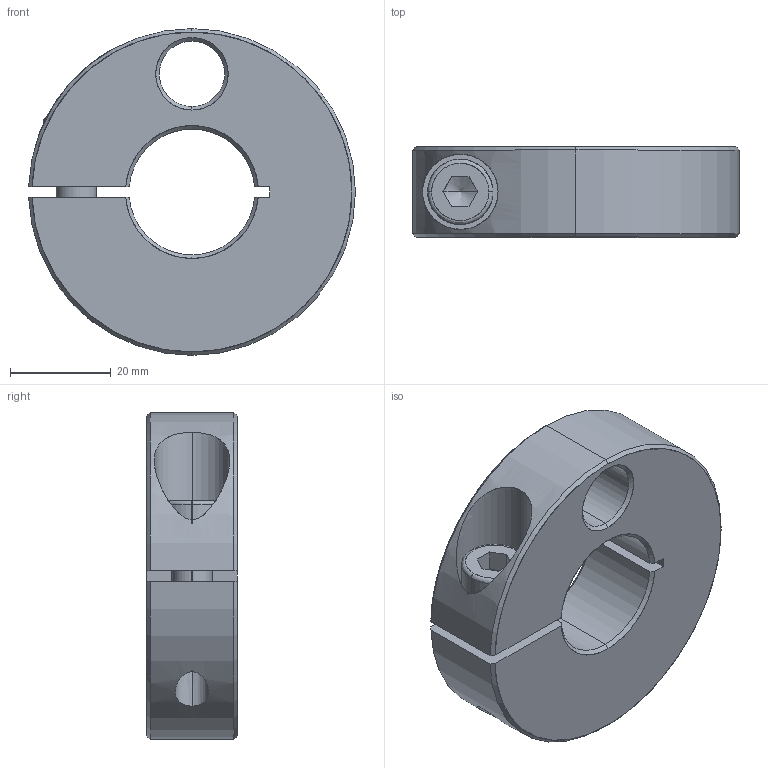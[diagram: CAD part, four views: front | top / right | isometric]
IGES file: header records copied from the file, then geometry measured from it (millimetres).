
Start section: SolidWorks IGES FILE using analytic representation for surfaces
Global section: file name: C:\WIX2\Positioning\3865\3865W025.igs; native system: SolidWorks 2003 by SolidWorks Corporation; preprocessor: Version 5.3; author: Joan; date: 030722.172932; units: millimetre
Bounding box: 64.98 x 18 x 65 mm (x, y, z)
Surface area: 13929.1 mm2 (no closed solid volume)
Topology: 0 solids, 0 shells, 67 faces, 1050 edges, 1048 vertices
Faces by surface type: revolution 47, bspline 20
